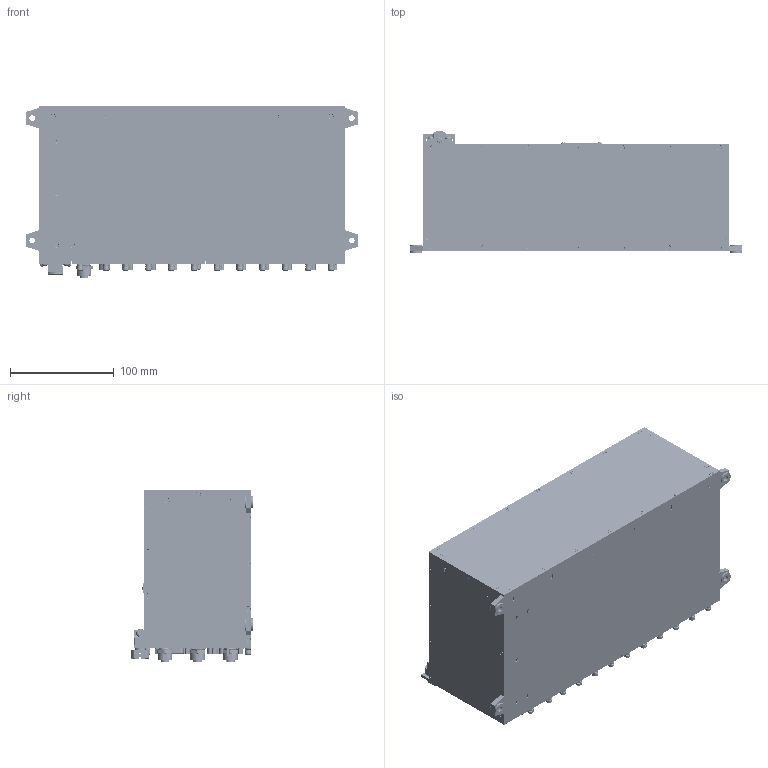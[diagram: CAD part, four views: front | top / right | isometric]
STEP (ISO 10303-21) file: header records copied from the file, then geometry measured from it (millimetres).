
FILE_DESCRIPTION(('STEP AP203'), '1');
FILE_NAME('帎迗.794121.007.m3', '', ('UNSPECIFIED'), ('UNSPECIFIED'), 'C3D Converter', 'C3D Toolkit', '');
FILE_SCHEMA(('CONFIG_CONTROL_DESIGN'));
Length unit declared in the file: millimetre
Products named in the file (1): КМНТ.794121.007
Bounding box: 320 x 117.97 x 166.39 mm (x, y, z)
Surface area: 367454.2 mm2
Topology: 5 solids, 8 shells, 18718 faces, 51933 edges, 34006 vertices
Faces by surface type: plane 8999, cylinder 8985, cone 253, revolution 223, torus 141, bspline 105, sphere 6, extrusion 6
Full cylindrical faces by diameter (mm): 0.217 x1, 0.9 x8, 0.91 x26, 1 x431, 1.125 x10, 1.5 x3, 2 x26, 2.362 x28, 2.4 x2, 2.459 x64, 3 x2, 3.1 x8, 3.175 x4, 3.2 x52, 3.4 x4, 3.8 x4, 4.3 x4, 4.5 x6, 4.7 x6, 5 x53, 5.5 x6, 6 x118, 7.475 x2, 7.5 x1, 8.15 x2, 8.25 x1, 8.4 x3, 8.85 x2, 8.9 x1, 9 x3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
Entity records: 773424 total; most frequent: CARTESIAN_POINT 135769, DIRECTION 104741, ORIENTED_EDGE 100770, EDGE_CURVE 50385, AXIS2_PLACEMENT_3D 37327, VERTEX_POINT 34038, VECTOR 29866, LINE 29860
